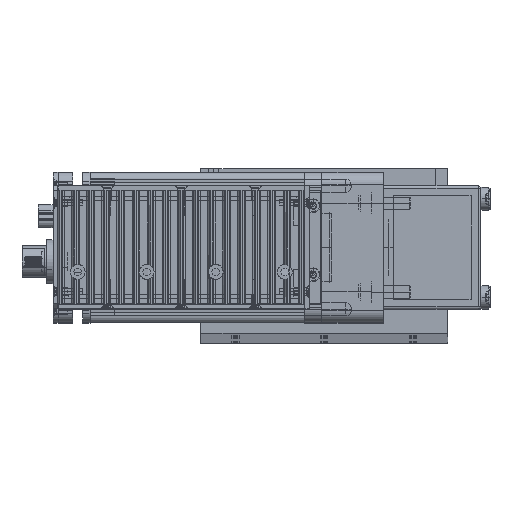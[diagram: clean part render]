
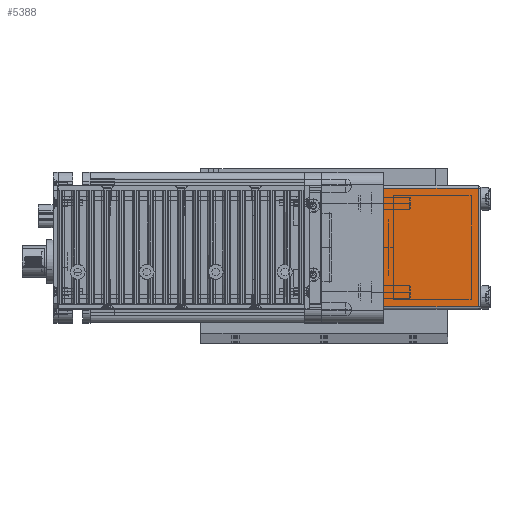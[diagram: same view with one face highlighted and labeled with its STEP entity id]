
A CAD part, top view. The second image highlights one B-rep face of the part: STEP entity #5388.
In plain terms, the highlighted planar face has unit normal (0, 0, 1) as drawn and (1, 0, 0) by its records, which use the part's own axes.
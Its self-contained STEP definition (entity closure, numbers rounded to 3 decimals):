
#5131 = EDGE_LOOP ( 'NONE', ( #5419, #5399, #5371, #5349 ) ) ;
#5349 = ORIENTED_EDGE ( 'NONE', *, *, #5383, .F. ) ;
#5371 = ORIENTED_EDGE ( 'NONE', *, *, #22597, .F. ) ;
#5383 = EDGE_CURVE ( 'NONE', #23328, #22717, #11425, .T. ) ;
#5384 = EDGE_CURVE ( 'NONE', #23293, #22438, #11460, .T. ) ;
#5388 = ADVANCED_FACE ( 'NONE', ( #11426 ), #11461, .F. ) ;
#5399 = ORIENTED_EDGE ( 'NONE', *, *, #5384, .T. ) ;
#5419 = ORIENTED_EDGE ( 'NONE', *, *, #23188, .F. ) ;
#11405 = VECTOR ( 'NONE', #11462, 1000. ) ;
#11406 = CARTESIAN_POINT ( 'NONE',  ( 62., -25., 38.5 ) ) ;
#11425 = LINE ( 'NONE', #11406, #11405 ) ;
#11426 = FACE_OUTER_BOUND ( 'NONE', #5131, .T. ) ;
#11444 = DIRECTION ( 'NONE',  ( 0., -1., 0. ) ) ;
#11445 = DIRECTION ( 'NONE',  ( -1., 0., 0. ) ) ;
#11446 = CARTESIAN_POINT ( 'NONE',  ( 62., 25., 39.5 ) ) ;
#11454 = AXIS2_PLACEMENT_3D ( 'NONE', #11446, #11445, #11444 ) ;
#11457 = DIRECTION ( 'NONE',  ( 0., 1., 0. ) ) ;
#11458 = VECTOR ( 'NONE', #11457, 1000. ) ;
#11459 = CARTESIAN_POINT ( 'NONE',  ( 62., -25., 0. ) ) ;
#11460 = LINE ( 'NONE', #11459, #11458 ) ;
#11461 = PLANE ( 'NONE',  #11454 ) ;
#11462 = DIRECTION ( 'NONE',  ( 0., 1., 0. ) ) ;
#22438 = VERTEX_POINT ( 'NONE', #39785 ) ;
#22597 = EDGE_CURVE ( 'NONE', #22717, #22438, #40065, .T. ) ;
#22717 = VERTEX_POINT ( 'NONE', #40021 ) ;
#23188 = EDGE_CURVE ( 'NONE', #23293, #23328, #41160, .T. ) ;
#23293 = VERTEX_POINT ( 'NONE', #41385 ) ;
#23328 = VERTEX_POINT ( 'NONE', #41390 ) ;
#39785 = CARTESIAN_POINT ( 'NONE',  ( 62., 24., 0. ) ) ;
#40021 = CARTESIAN_POINT ( 'NONE',  ( 62., 24., 38.5 ) ) ;
#40061 = CARTESIAN_POINT ( 'NONE',  ( 62., 24., 39.5 ) ) ;
#40065 = LINE ( 'NONE', #40061, #40068 ) ;
#40068 = VECTOR ( 'NONE', #40080, 1000. ) ;
#40080 = DIRECTION ( 'NONE',  ( 0., 0., -1. ) ) ;
#41158 = VECTOR ( 'NONE', #41213, 1000. ) ;
#41159 = CARTESIAN_POINT ( 'NONE',  ( 62., -24., 39.5 ) ) ;
#41160 = LINE ( 'NONE', #41159, #41158 ) ;
#41213 = DIRECTION ( 'NONE',  ( 0., 0., 1. ) ) ;
#41385 = CARTESIAN_POINT ( 'NONE',  ( 62., -24., 0. ) ) ;
#41390 = CARTESIAN_POINT ( 'NONE',  ( 62., -24., 38.5 ) ) ;
